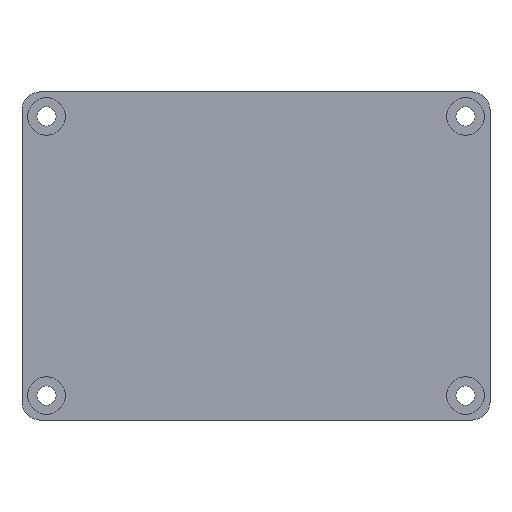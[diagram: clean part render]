
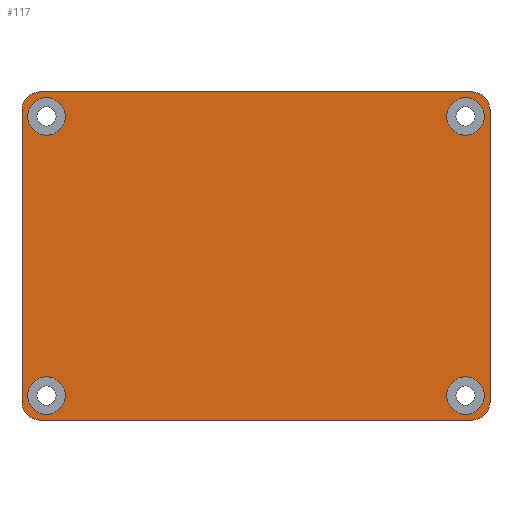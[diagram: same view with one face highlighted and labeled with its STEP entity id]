
A CAD part, front view. The second image highlights one B-rep face of the part: STEP entity #117.
In plain terms, the highlighted planar face has unit normal (0, -1, 0).
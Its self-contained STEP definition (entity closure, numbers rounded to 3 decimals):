
#4 = LINE ( 'NONE', #33, #55 ) ;
#13 = EDGE_CURVE ( 'NONE', #999, #1321, #4, .T. ) ;
#30 = AXIS2_PLACEMENT_3D ( 'NONE', #1232, #1216, #1220 ) ;
#33 = CARTESIAN_POINT ( 'NONE',  ( 26.75, 0., -16.75 ) ) ;
#55 = VECTOR ( 'NONE', #757, 1000. ) ;
#67 = CIRCLE ( 'NONE', #233, 2. ) ;
#110 = EDGE_CURVE ( 'NONE', #746, #1781, #992, .T. ) ;
#117 = ADVANCED_FACE ( 'NONE', ( #1338, #1061, #1201, #948, #903 ), #752, .T. ) ;
#122 = AXIS2_PLACEMENT_3D ( 'NONE', #1198, #1192, #1151 ) ;
#123 = CARTESIAN_POINT ( 'NONE',  ( -24.75, 0., -18.75 ) ) ;
#132 = VERTEX_POINT ( 'NONE', #738 ) ;
#196 = ORIENTED_EDGE ( 'NONE', *, *, #1328, .F. ) ;
#233 = AXIS2_PLACEMENT_3D ( 'NONE', #561, #563, #565 ) ;
#240 = CARTESIAN_POINT ( 'NONE',  ( 24.75, 0., 16.75 ) ) ;
#241 = EDGE_CURVE ( 'NONE', #1309, #316, #67, .T. ) ;
#242 = VERTEX_POINT ( 'NONE', #735 ) ;
#247 = DIRECTION ( 'NONE',  ( 0., 0., -1. ) ) ;
#257 = DIRECTION ( 'NONE',  ( 0., 1., 0. ) ) ;
#258 = ORIENTED_EDGE ( 'NONE', *, *, #1774, .F. ) ;
#264 = EDGE_CURVE ( 'NONE', #316, #1625, #1744, .T. ) ;
#308 = AXIS2_PLACEMENT_3D ( 'NONE', #937, #974, #982 ) ;
#316 = VERTEX_POINT ( 'NONE', #455 ) ;
#319 = CIRCLE ( 'NONE', #30, 2.15 ) ;
#321 = VERTEX_POINT ( 'NONE', #429 ) ;
#338 = AXIS2_PLACEMENT_3D ( 'NONE', #240, #257, #247 ) ;
#340 = AXIS2_PLACEMENT_3D ( 'NONE', #1756, #1755, #1749 ) ;
#344 = AXIS2_PLACEMENT_3D ( 'NONE', #770, #773, #775 ) ;
#347 = EDGE_CURVE ( 'NONE', #1426, #242, #1243, .T. ) ;
#387 = ORIENTED_EDGE ( 'NONE', *, *, #895, .F. ) ;
#399 = DIRECTION ( 'NONE',  ( 0., 0., -1. ) ) ;
#406 = DIRECTION ( 'NONE',  ( 0., -1., 0. ) ) ;
#409 = CARTESIAN_POINT ( 'NONE',  ( -23.95, 0., -15.95 ) ) ;
#429 = CARTESIAN_POINT ( 'NONE',  ( 23.95, 0., 18.1 ) ) ;
#443 = EDGE_LOOP ( 'NONE', ( #1493, #551 ) ) ;
#455 = CARTESIAN_POINT ( 'NONE',  ( -24.75, 0., 18.75 ) ) ;
#464 = EDGE_LOOP ( 'NONE', ( #1845, #1350 ) ) ;
#494 = CIRCLE ( 'NONE', #1529, 2.15 ) ;
#507 = CIRCLE ( 'NONE', #122, 2. ) ;
#517 = CARTESIAN_POINT ( 'NONE',  ( -24.75, 0., 18.75 ) ) ;
#518 = DIRECTION ( 'NONE',  ( 1., 0., 0. ) ) ;
#530 = VECTOR ( 'NONE', #1471, 1000. ) ;
#536 = CIRCLE ( 'NONE', #685, 2.15 ) ;
#551 = ORIENTED_EDGE ( 'NONE', *, *, #1467, .F. ) ;
#561 = CARTESIAN_POINT ( 'NONE',  ( -24.75, 0., 16.75 ) ) ;
#563 = DIRECTION ( 'NONE',  ( 0., 1., 0. ) ) ;
#565 = DIRECTION ( 'NONE',  ( 0., 0., -1. ) ) ;
#606 = EDGE_CURVE ( 'NONE', #836, #321, #1817, .T. ) ;
#632 = AXIS2_PLACEMENT_3D ( 'NONE', #769, #780, #782 ) ;
#673 = ORIENTED_EDGE ( 'NONE', *, *, #264, .F. ) ;
#684 = CIRCLE ( 'NONE', #759, 2.15 ) ;
#685 = AXIS2_PLACEMENT_3D ( 'NONE', #809, #799, #793 ) ;
#696 = ORIENTED_EDGE ( 'NONE', *, *, #1804, .F. ) ;
#734 = CIRCLE ( 'NONE', #308, 2.15 ) ;
#735 = CARTESIAN_POINT ( 'NONE',  ( -23.95, 0., -18.1 ) ) ;
#738 = CARTESIAN_POINT ( 'NONE',  ( 24.75, 0., -18.75 ) ) ;
#746 = VERTEX_POINT ( 'NONE', #1591 ) ;
#752 = PLANE ( 'NONE',  #632 ) ;
#757 = DIRECTION ( 'NONE',  ( 0., 0., -1. ) ) ;
#759 = AXIS2_PLACEMENT_3D ( 'NONE', #1725, #1719, #1717 ) ;
#769 = CARTESIAN_POINT ( 'NONE',  ( -24.75, 0., 16.75 ) ) ;
#770 = CARTESIAN_POINT ( 'NONE',  ( 23.95, 0., -15.95 ) ) ;
#773 = DIRECTION ( 'NONE',  ( 0., -1., 0. ) ) ;
#775 = DIRECTION ( 'NONE',  ( 0., 0., -1. ) ) ;
#780 = DIRECTION ( 'NONE',  ( 0., -1., 0. ) ) ;
#782 = DIRECTION ( 'NONE',  ( 0., 0., -1. ) ) ;
#793 = DIRECTION ( 'NONE',  ( 0., 0., -1. ) ) ;
#799 = DIRECTION ( 'NONE',  ( 0., -1., 0. ) ) ;
#809 = CARTESIAN_POINT ( 'NONE',  ( 23.95, 0., 15.95 ) ) ;
#836 = VERTEX_POINT ( 'NONE', #1326 ) ;
#872 = LINE ( 'NONE', #1472, #530 ) ;
#895 = EDGE_CURVE ( 'NONE', #1329, #1042, #319, .T. ) ;
#903 = FACE_OUTER_BOUND ( 'NONE', #1325, .T. ) ;
#905 = CARTESIAN_POINT ( 'NONE',  ( -23.95, 0., 13.8 ) ) ;
#915 = ORIENTED_EDGE ( 'NONE', *, *, #1664, .F. ) ;
#923 = EDGE_CURVE ( 'NONE', #1181, #1287, #507, .T. ) ;
#933 = AXIS2_PLACEMENT_3D ( 'NONE', #1605, #1603, #1600 ) ;
#937 = CARTESIAN_POINT ( 'NONE',  ( -23.95, 0., 15.95 ) ) ;
#938 = CARTESIAN_POINT ( 'NONE',  ( 26.75, 0., 16.75 ) ) ;
#948 = FACE_BOUND ( 'NONE', #1741, .T. ) ;
#959 = ORIENTED_EDGE ( 'NONE', *, *, #347, .F. ) ;
#974 = DIRECTION ( 'NONE',  ( 0., -1., 0. ) ) ;
#982 = DIRECTION ( 'NONE',  ( 0., 0., -1. ) ) ;
#992 = CIRCLE ( 'NONE', #344, 2.15 ) ;
#999 = VERTEX_POINT ( 'NONE', #938 ) ;
#1042 = VERTEX_POINT ( 'NONE', #905 ) ;
#1061 = FACE_BOUND ( 'NONE', #464, .T. ) ;
#1083 = EDGE_CURVE ( 'NONE', #1625, #999, #1419, .T. ) ;
#1151 = DIRECTION ( 'NONE',  ( 0., 0., 1. ) ) ;
#1159 = CARTESIAN_POINT ( 'NONE',  ( -23.95, 0., -13.8 ) ) ;
#1181 = VERTEX_POINT ( 'NONE', #123 ) ;
#1192 = DIRECTION ( 'NONE',  ( 0., 1., 0. ) ) ;
#1193 = DIRECTION ( 'NONE',  ( 0., 0., -1. ) ) ;
#1198 = CARTESIAN_POINT ( 'NONE',  ( -24.75, 0., -16.75 ) ) ;
#1200 = DIRECTION ( 'NONE',  ( 0., -1., 0. ) ) ;
#1201 = FACE_BOUND ( 'NONE', #443, .T. ) ;
#1203 = CARTESIAN_POINT ( 'NONE',  ( 23.95, 0., -15.95 ) ) ;
#1216 = DIRECTION ( 'NONE',  ( 0., -1., 0. ) ) ;
#1220 = DIRECTION ( 'NONE',  ( 0., 0., -1. ) ) ;
#1232 = CARTESIAN_POINT ( 'NONE',  ( -23.95, 0., 15.95 ) ) ;
#1243 = CIRCLE ( 'NONE', #1428, 2.15 ) ;
#1287 = VERTEX_POINT ( 'NONE', #1742 ) ;
#1290 = ORIENTED_EDGE ( 'NONE', *, *, #13, .F. ) ;
#1309 = VERTEX_POINT ( 'NONE', #1576 ) ;
#1321 = VERTEX_POINT ( 'NONE', #1484 ) ;
#1325 = EDGE_LOOP ( 'NONE', ( #1715, #696, #1632, #196, #258, #1290, #1767, #673 ) ) ;
#1326 = CARTESIAN_POINT ( 'NONE',  ( 23.95, 0., 13.8 ) ) ;
#1328 = EDGE_CURVE ( 'NONE', #132, #1181, #1806, .T. ) ;
#1329 = VERTEX_POINT ( 'NONE', #1498 ) ;
#1338 = FACE_BOUND ( 'NONE', #1771, .T. ) ;
#1350 = ORIENTED_EDGE ( 'NONE', *, *, #110, .F. ) ;
#1419 = CIRCLE ( 'NONE', #338, 2. ) ;
#1426 = VERTEX_POINT ( 'NONE', #1159 ) ;
#1428 = AXIS2_PLACEMENT_3D ( 'NONE', #409, #406, #399 ) ;
#1437 = DIRECTION ( 'NONE',  ( -1., 0., 0. ) ) ;
#1440 = EDGE_CURVE ( 'NONE', #1042, #1329, #734, .T. ) ;
#1467 = EDGE_CURVE ( 'NONE', #321, #836, #536, .T. ) ;
#1471 = DIRECTION ( 'NONE',  ( 0., 0., 1. ) ) ;
#1472 = CARTESIAN_POINT ( 'NONE',  ( -26.75, 0., -16.75 ) ) ;
#1484 = CARTESIAN_POINT ( 'NONE',  ( 26.75, 0., -16.75 ) ) ;
#1493 = ORIENTED_EDGE ( 'NONE', *, *, #606, .F. ) ;
#1494 = CARTESIAN_POINT ( 'NONE',  ( -24.75, 0., -18.75 ) ) ;
#1498 = CARTESIAN_POINT ( 'NONE',  ( -23.95, 0., 18.1 ) ) ;
#1529 = AXIS2_PLACEMENT_3D ( 'NONE', #1203, #1200, #1193 ) ;
#1576 = CARTESIAN_POINT ( 'NONE',  ( -26.75, 0., 16.75 ) ) ;
#1591 = CARTESIAN_POINT ( 'NONE',  ( 23.95, 0., -13.8 ) ) ;
#1600 = DIRECTION ( 'NONE',  ( 0., 0., 1. ) ) ;
#1603 = DIRECTION ( 'NONE',  ( 0., 1., 0. ) ) ;
#1605 = CARTESIAN_POINT ( 'NONE',  ( 24.75, 0., -16.75 ) ) ;
#1625 = VERTEX_POINT ( 'NONE', #1897 ) ;
#1632 = ORIENTED_EDGE ( 'NONE', *, *, #923, .F. ) ;
#1636 = VECTOR ( 'NONE', #518, 1000. ) ;
#1639 = CARTESIAN_POINT ( 'NONE',  ( 23.95, 0., -18.1 ) ) ;
#1640 = VECTOR ( 'NONE', #1437, 1000. ) ;
#1664 = EDGE_CURVE ( 'NONE', #242, #1426, #684, .T. ) ;
#1715 = ORIENTED_EDGE ( 'NONE', *, *, #241, .F. ) ;
#1717 = DIRECTION ( 'NONE',  ( 0., 0., -1. ) ) ;
#1719 = DIRECTION ( 'NONE',  ( 0., -1., 0. ) ) ;
#1725 = CARTESIAN_POINT ( 'NONE',  ( -23.95, 0., -15.95 ) ) ;
#1740 = CIRCLE ( 'NONE', #933, 2. ) ;
#1741 = EDGE_LOOP ( 'NONE', ( #1883, #387 ) ) ;
#1742 = CARTESIAN_POINT ( 'NONE',  ( -26.75, 0., -16.75 ) ) ;
#1744 = LINE ( 'NONE', #517, #1636 ) ;
#1749 = DIRECTION ( 'NONE',  ( 0., 0., -1. ) ) ;
#1755 = DIRECTION ( 'NONE',  ( 0., -1., 0. ) ) ;
#1756 = CARTESIAN_POINT ( 'NONE',  ( 23.95, 0., 15.95 ) ) ;
#1767 = ORIENTED_EDGE ( 'NONE', *, *, #1083, .F. ) ;
#1771 = EDGE_LOOP ( 'NONE', ( #915, #959 ) ) ;
#1774 = EDGE_CURVE ( 'NONE', #1321, #132, #1740, .T. ) ;
#1781 = VERTEX_POINT ( 'NONE', #1639 ) ;
#1804 = EDGE_CURVE ( 'NONE', #1287, #1309, #872, .T. ) ;
#1806 = LINE ( 'NONE', #1494, #1640 ) ;
#1817 = CIRCLE ( 'NONE', #340, 2.15 ) ;
#1845 = ORIENTED_EDGE ( 'NONE', *, *, #1912, .F. ) ;
#1883 = ORIENTED_EDGE ( 'NONE', *, *, #1440, .F. ) ;
#1897 = CARTESIAN_POINT ( 'NONE',  ( 24.75, 0., 18.75 ) ) ;
#1912 = EDGE_CURVE ( 'NONE', #1781, #746, #494, .T. ) ;
